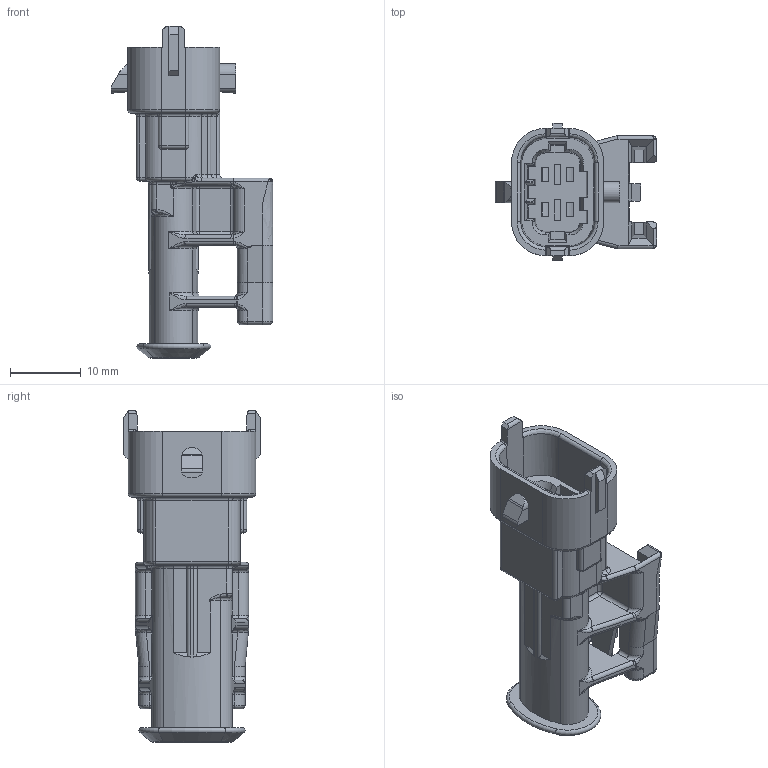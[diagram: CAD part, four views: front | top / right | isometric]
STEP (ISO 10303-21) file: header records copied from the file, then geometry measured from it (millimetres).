
FILE_DESCRIPTION(/* description */ (''),/* implementation_level */ '2;1');
FILE_NAME(/* name */ 'A928000046_00_001__altrep__A928000046_00_a_01_2PN.stp',/* time_stamp */ '2014-02-11T12:55:28+01:00',/* author */ (''),/* organization */ (''),/* preprocessor_version */ 'ST-DEVELOPER v11',/* originating_system */ 'SIEMENS PLM Software NX 7.5',/* authorisation */ '');
FILE_SCHEMA (('AUTOMOTIVE_DESIGN { 1 0 10303 214 1 1 1 1 }'));
Length unit declared in the file: millimetre
Products named in the file (1): A928000046_00_001
Bounding box: 22.8 x 19.4 x 46.9 mm (x, y, z)
Volume: 4178.6 mm3; surface area: 4886.3 mm2
Topology: 1 solids, 1 shells, 636 faces, 1597 edges, 927 vertices
Faces by surface type: plane 249, cylinder 189, torus 89, bspline 79, sphere 20, cone 10
Entity records: 20791 total; most frequent: CARTESIAN_POINT 6222, ORIENTED_EDGE 3106, DIRECTION 3008, EDGE_CURVE 1553, AXIS2_PLACEMENT_3D 1098, VERTEX_POINT 926, LINE 812, VECTOR 812
